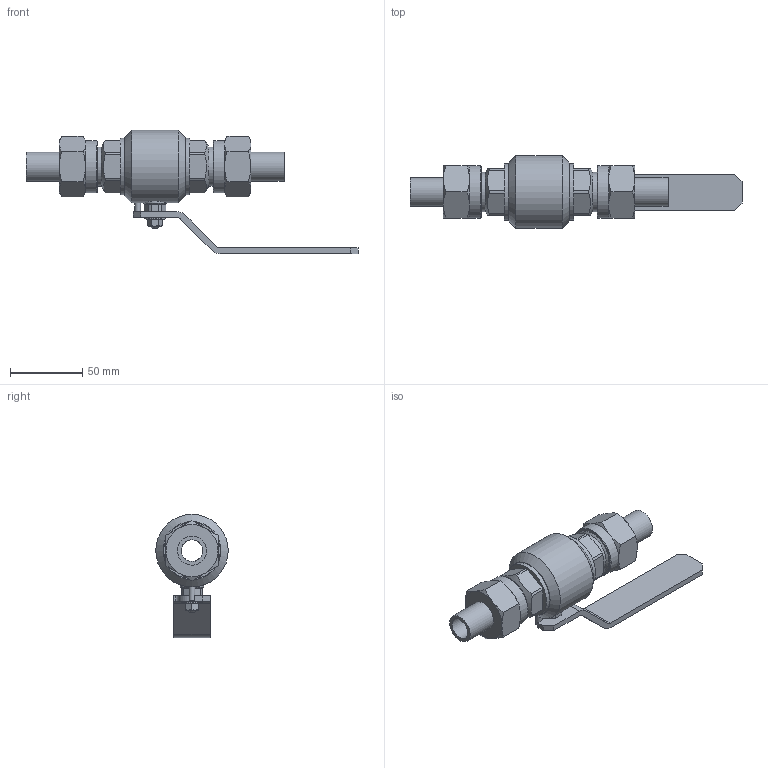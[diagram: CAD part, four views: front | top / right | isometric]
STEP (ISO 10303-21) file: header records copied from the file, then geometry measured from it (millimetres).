
FILE_DESCRIPTION(('STEP AP203'), '1');
FILE_NAME('ZARDP 015.080.30.P.stp', '2013-12-05T11:06:52', ('1'), ('1'), 'ASCON STEP Converter 1.3', 'Kompas 3D', '');
FILE_SCHEMA(('CONFIG_CONTROL_DESIGN','SUPPORT_RESOURCE_SCHEMA'));
Length unit declared in the file: millimetre
Products named in the file (1): 130
Bounding box: 229 x 50 x 85 mm (x, y, z)
Surface area: 53922.1 mm2 (no closed solid volume)
Topology: 0 solids, 3 shells, 237 faces, 550 edges, 336 vertices
Faces by surface type: plane 116, cylinder 58, cone 58, bspline 3, torus 2
Full cylindrical faces by diameter (mm): 4 x2, 6 x2, 8.673 x1, 9 x1, 10 x1, 10.1 x1, 14.2 x1, 15 x4, 15.8 x1, 16 x3, 20 x2, 23.3 x2, 27 x2, 30 x2, 30.016 x2, 31.4 x1, 36 x2, 39 x2, 50 x1
Entity records: 9539 total; most frequent: CARTESIAN_POINT 4064, DIRECTION 1149, ORIENTED_EDGE 1098, EDGE_CURVE 549, AXIS2_PLACEMENT_3D 450, VERTEX_POINT 336, EDGE_LOOP 269, LINE 249
